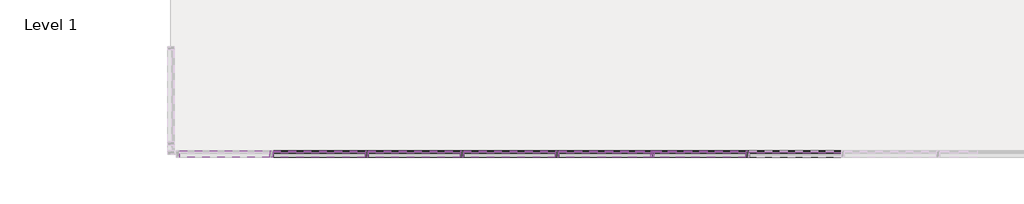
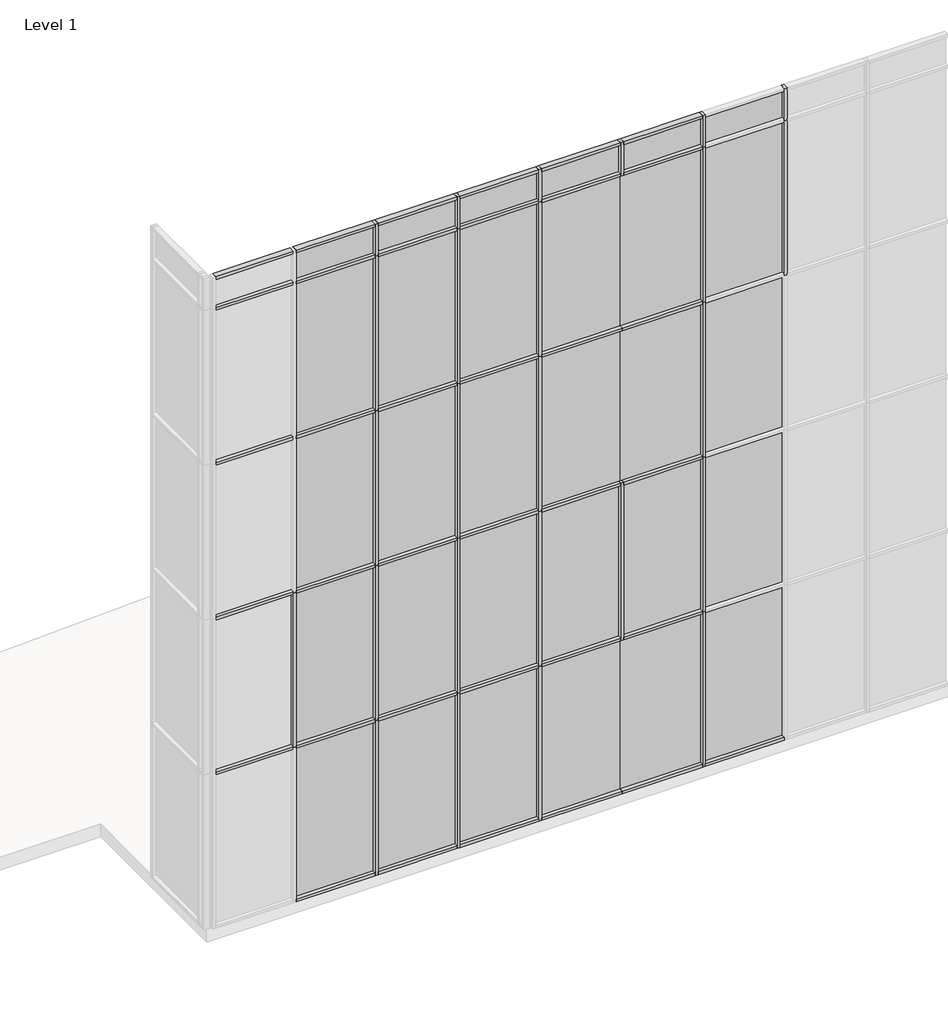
# One storey, part 2 of 3: 61 members, 30 plates.
"""IFC4 building model written with IfcOpenShell, lengths in millimetres."""

from ifc_helpers import new_model, si_unit, origin, place, context, project, spatial, transform, mapped, element, save
from components import member_810865a4, member_61742b2b, member_6d5c3e5e, member_64ee9188, member_9764dd38, member_bca00a8a, member_6f717f5b, member_c3fe432b, member_165c0c02, member_9ae56b13, system_panel_glazed_7e716341, system_panel_glazed_7e07fde3, system_panel_glazed_a6232784, system_panel_glazed_dcdf1185, system_panel_glazed_e74b10a4

model = new_model("IFC4")

# Units and contexts
model_context = context("Model", 3, world=origin())
ifc_project = project(units=[si_unit("LENGTHUNIT", "METRE", prefix="MILLI")], contexts=[model_context])

# Site, building, storey
site = spatial("IfcSite", under=ifc_project)
building = spatial("IfcBuilding", under=site)
storey = spatial("IfcBuildingStorey", under=building, Name="Level 1", Elevation=0.0)

# Members
placement = place(None, origin())
member_shape = member_810865a4(model_context)
element("IfcMember", 1, ObjectType="Rectangular Mullion : 2.5\" x 5\" rectangular", at=placement, inside=storey, context=model_context, shape_type="MappedRepresentation", body=[
    mapped(member_shape, transform((6219.4188959, 4686.3138106, 0.0), x_axis=(1.0, 0.0, 0.0), y_axis=(0.0, -1.0, 0.0), z_axis=(0.0, 0.0, -1.0))),
])
element("IfcMember", 2, ObjectType="Rectangular Mullion : 2.5\" x 5\" rectangular", at=placement, inside=storey, context=model_context, shape_type="MappedRepresentation", body=[
    mapped(member_shape, transform((2561.8188959, 4686.3138106, 0.0), x_axis=(1.0, 0.0, 0.0), y_axis=(0.0, -1.0, 0.0), z_axis=(0.0, 0.0, -1.0))),
])
element("IfcMember", 3, ObjectType="Rectangular Mullion : 2.5\" x 5\" rectangular", at=placement, inside=storey, context=model_context, shape_type="MappedRepresentation", body=[
    mapped(member_shape, transform((4390.6188959, 4686.3138106, 0.0), x_axis=(1.0, 0.0, 0.0), y_axis=(0.0, -1.0, 0.0), z_axis=(0.0, 0.0, -1.0))),
])
element("IfcMember", 4, ObjectType="Rectangular Mullion : 2.5\" x 5\" rectangular", at=placement, inside=storey, context=model_context, shape_type="MappedRepresentation", body=[
    mapped(member_shape, transform((9877.0188959, 4686.3138106, 0.0), x_axis=(1.0, 0.0, 0.0), y_axis=(0.0, -1.0, 0.0), z_axis=(0.0, 0.0, -1.0))),
])
member_2_shape = member_61742b2b(model_context)
element("IfcMember", 5, ObjectType="Rectangular Mullion : 2.5\" x 5\" rectangular", at=placement, inside=storey, context=model_context, shape_type="MappedRepresentation", body=[
    mapped(member_2_shape, transform((6219.4188959, 4686.3138106, 14630.4), x_axis=(1.0, 0.0, 0.0), y_axis=(0.0, -1.0, 0.0), z_axis=(0.0, 0.0, -1.0))),
])
element("IfcMember", 6, ObjectType="Rectangular Mullion : 2.5\" x 5\" rectangular", at=placement, inside=storey, context=model_context, shape_type="MappedRepresentation", body=[
    mapped(member_2_shape, transform((11705.8188959, 4686.3138106, 14630.4), x_axis=(1.0, 0.0, 0.0), y_axis=(0.0, -1.0, 0.0), z_axis=(0.0, 0.0, -1.0))),
])
element("IfcMember", 7, ObjectType="Rectangular Mullion : 2.5\" x 5\" rectangular", at=placement, inside=storey, context=model_context, shape_type="MappedRepresentation", body=[
    mapped(member_2_shape, transform((9877.0188959, 4686.3138106, 14630.4), x_axis=(1.0, 0.0, 0.0), y_axis=(0.0, -1.0, 0.0), z_axis=(0.0, 0.0, -1.0))),
])
element("IfcMember", 8, ObjectType="Rectangular Mullion : 2.5\" x 5\" rectangular", at=placement, inside=storey, context=model_context, shape_type="MappedRepresentation", body=[
    mapped(member_2_shape, transform((4390.6188959, 4686.3138106, 14630.4), x_axis=(1.0, 0.0, 0.0), y_axis=(0.0, -1.0, 0.0), z_axis=(0.0, 0.0, -1.0))),
])
element("IfcMember", 9, ObjectType="Rectangular Mullion : 2.5\" x 5\" rectangular", at=placement, inside=storey, context=model_context, shape_type="MappedRepresentation", body=[
    mapped(member_2_shape, transform((2561.8188959, 4686.3138106, 14630.4), x_axis=(1.0, 0.0, 0.0), y_axis=(0.0, -1.0, 0.0), z_axis=(0.0, 0.0, -1.0))),
])
element("IfcMember", 10, ObjectType="Rectangular Mullion : 2.5\" x 5\" rectangular", at=placement, inside=storey, context=model_context, shape_type="MappedRepresentation", body=[
    mapped(member_shape, transform((6219.4188959, 4686.3138106, 3657.6), x_axis=(1.0, 0.0, 0.0), y_axis=(0.0, -1.0, 0.0), z_axis=(0.0, 0.0, -1.0))),
])
element("IfcMember", 11, ObjectType="Rectangular Mullion : 2.5\" x 5\" rectangular", at=placement, inside=storey, context=model_context, shape_type="MappedRepresentation", body=[
    mapped(member_shape, transform((6219.4188959, 4686.3138106, 7315.2), x_axis=(1.0, 0.0, 0.0), y_axis=(0.0, -1.0, 0.0), z_axis=(0.0, 0.0, -1.0))),
])
element("IfcMember", 12, ObjectType="Rectangular Mullion : 2.5\" x 5\" rectangular", at=placement, inside=storey, context=model_context, shape_type="MappedRepresentation", body=[
    mapped(member_shape, transform((6219.4188959, 4686.3138106, 10972.8), x_axis=(1.0, 0.0, 0.0), y_axis=(0.0, -1.0, 0.0), z_axis=(0.0, 0.0, -1.0))),
])
element("IfcMember", 13, ObjectType="Rectangular Mullion : 2.5\" x 5\" rectangular", at=placement, inside=storey, context=model_context, shape_type="MappedRepresentation", body=[
    mapped(member_shape, transform((11705.8188959, 4686.3138106, 10972.8), x_axis=(1.0, 0.0, 0.0), y_axis=(0.0, -1.0, 0.0), z_axis=(0.0, 0.0, -1.0))),
])
element("IfcMember", 14, ObjectType="Rectangular Mullion : 2.5\" x 5\" rectangular", at=placement, inside=storey, context=model_context, shape_type="MappedRepresentation", body=[
    mapped(member_shape, transform((9877.0188959, 4686.3138106, 10972.8), x_axis=(1.0, 0.0, 0.0), y_axis=(0.0, -1.0, 0.0), z_axis=(0.0, 0.0, -1.0))),
])
element("IfcMember", 15, ObjectType="Rectangular Mullion : 2.5\" x 5\" rectangular", at=placement, inside=storey, context=model_context, shape_type="MappedRepresentation", body=[
    mapped(member_shape, transform((9877.0188959, 4686.3138106, 7315.2), x_axis=(1.0, 0.0, 0.0), y_axis=(0.0, -1.0, 0.0), z_axis=(0.0, 0.0, -1.0))),
])
element("IfcMember", 16, ObjectType="Rectangular Mullion : 2.5\" x 5\" rectangular", at=placement, inside=storey, context=model_context, shape_type="MappedRepresentation", body=[
    mapped(member_shape, transform((9877.0188959, 4686.3138106, 3657.6), x_axis=(1.0, 0.0, 0.0), y_axis=(0.0, -1.0, 0.0), z_axis=(0.0, 0.0, -1.0))),
])
element("IfcMember", 17, ObjectType="Rectangular Mullion : 2.5\" x 5\" rectangular", at=placement, inside=storey, context=model_context, shape_type="MappedRepresentation", body=[
    mapped(member_shape, transform((4390.6188959, 4686.3138106, 10972.8), x_axis=(1.0, 0.0, 0.0), y_axis=(0.0, -1.0, 0.0), z_axis=(0.0, 0.0, -1.0))),
])
element("IfcMember", 18, ObjectType="Rectangular Mullion : 2.5\" x 5\" rectangular", at=placement, inside=storey, context=model_context, shape_type="MappedRepresentation", body=[
    mapped(member_shape, transform((4390.6188959, 4686.3138106, 7315.2), x_axis=(1.0, 0.0, 0.0), y_axis=(0.0, -1.0, 0.0), z_axis=(0.0, 0.0, -1.0))),
])
element("IfcMember", 19, ObjectType="Rectangular Mullion : 2.5\" x 5\" rectangular", at=placement, inside=storey, context=model_context, shape_type="MappedRepresentation", body=[
    mapped(member_shape, transform((4390.6188959, 4686.3138106, 3657.6), x_axis=(1.0, 0.0, 0.0), y_axis=(0.0, -1.0, 0.0), z_axis=(0.0, 0.0, -1.0))),
])
element("IfcMember", 20, ObjectType="Rectangular Mullion : 2.5\" x 5\" rectangular", at=placement, inside=storey, context=model_context, shape_type="MappedRepresentation", body=[
    mapped(member_shape, transform((2561.8188959, 4686.3138106, 10972.8), x_axis=(1.0, 0.0, 0.0), y_axis=(0.0, -1.0, 0.0), z_axis=(0.0, 0.0, -1.0))),
])
element("IfcMember", 21, ObjectType="Rectangular Mullion : 2.5\" x 5\" rectangular", at=placement, inside=storey, context=model_context, shape_type="MappedRepresentation", body=[
    mapped(member_shape, transform((2561.8188959, 4686.3138106, 7315.2), x_axis=(1.0, 0.0, 0.0), y_axis=(0.0, -1.0, 0.0), z_axis=(0.0, 0.0, -1.0))),
])
element("IfcMember", 22, ObjectType="Rectangular Mullion : 2.5\" x 5\" rectangular", at=placement, inside=storey, context=model_context, shape_type="MappedRepresentation", body=[
    mapped(member_shape, transform((2561.8188959, 4686.3138106, 3657.6), x_axis=(1.0, 0.0, 0.0), y_axis=(0.0, -1.0, 0.0), z_axis=(0.0, 0.0, -1.0))),
])
element("IfcMember", 23, ObjectType="Rectangular Mullion : 2.5\" x 5\" rectangular", at=placement, inside=storey, context=model_context, shape_type="MappedRepresentation", body=[
    mapped(member_shape, transform((733.0188959, 4686.3138106, 3657.6), x_axis=(1.0, 0.0, 0.0), y_axis=(0.0, -1.0, 0.0), z_axis=(0.0, 0.0, -1.0))),
])
member_3_shape = member_6d5c3e5e(model_context)
element("IfcMember", 24, ObjectType="Rectangular Mullion : 2.5\" x 5\" rectangular", at=placement, inside=storey, context=model_context, shape_type="MappedRepresentation", body=[
    mapped(member_3_shape, transform((9845.2688959, 4686.3138106, 15392.4), x_axis=(0.0, 0.0, 1.0), y_axis=(0.0, -1.0, 0.0), z_axis=(1.0, 0.0, 0.0))),
])
element("IfcMember", 25, ObjectType="Rectangular Mullion : 2.5\" x 5\" rectangular", at=placement, inside=storey, context=model_context, shape_type="MappedRepresentation", body=[
    mapped(member_3_shape, transform((8016.4688959, 4686.3138106, 15392.4), x_axis=(0.0, 0.0, 1.0), y_axis=(0.0, -1.0, 0.0), z_axis=(1.0, 0.0, 0.0))),
])
element("IfcMember", 26, ObjectType="Rectangular Mullion : 2.5\" x 5\" rectangular", at=placement, inside=storey, context=model_context, shape_type="MappedRepresentation", body=[
    mapped(member_3_shape, transform((6187.6688959, 4686.3138106, 15392.4), x_axis=(0.0, 0.0, 1.0), y_axis=(0.0, -1.0, 0.0), z_axis=(1.0, 0.0, 0.0))),
])
element("IfcMember", 27, ObjectType="Rectangular Mullion : 2.5\" x 5\" rectangular", at=placement, inside=storey, context=model_context, shape_type="MappedRepresentation", body=[
    mapped(member_3_shape, transform((4358.8688959, 4686.3138106, 15392.4), x_axis=(0.0, 0.0, 1.0), y_axis=(0.0, -1.0, 0.0), z_axis=(1.0, 0.0, 0.0))),
])
element("IfcMember", 28, ObjectType="Rectangular Mullion : 2.5\" x 5\" rectangular", at=placement, inside=storey, context=model_context, shape_type="MappedRepresentation", body=[
    mapped(member_3_shape, transform((2530.0688959, 4686.3138106, 15392.4), x_axis=(0.0, 0.0, 1.0), y_axis=(0.0, -1.0, 0.0), z_axis=(1.0, 0.0, 0.0))),
])
member_4_shape = member_64ee9188(model_context)
element("IfcMember", 29, ObjectType="Rectangular Mullion : 2.5\" x 5\" rectangular", at=placement, inside=storey, context=model_context, shape_type="MappedRepresentation", body=[
    mapped(member_4_shape, transform((701.2688959, 4686.3138106, 15392.4), x_axis=(0.0, 0.0, 1.0), y_axis=(0.0, -1.0, 0.0), z_axis=(1.0, 0.0, 0.0))),
])
element("IfcMember", 30, ObjectType="Rectangular Mullion : 2.5\" x 5\" rectangular", at=placement, inside=storey, context=model_context, shape_type="MappedRepresentation", body=[
    mapped(member_3_shape, transform((9908.7688959, 4686.3138106, 0.0), x_axis=(0.0, 0.0, -1.0), y_axis=(0.0, -1.0, 0.0), z_axis=(-1.0, 0.0, 0.0))),
])
element("IfcMember", 31, ObjectType="Rectangular Mullion : 2.5\" x 5\" rectangular", at=placement, inside=storey, context=model_context, shape_type="MappedRepresentation", body=[
    mapped(member_3_shape, transform((4422.3688959, 4686.3138106, 0.0), x_axis=(0.0, 0.0, -1.0), y_axis=(0.0, -1.0, 0.0), z_axis=(-1.0, 0.0, 0.0))),
])
element("IfcMember", 32, ObjectType="Rectangular Mullion : 2.5\" x 5\" rectangular", at=placement, inside=storey, context=model_context, shape_type="MappedRepresentation", body=[
    mapped(member_3_shape, transform((2593.5688959, 4686.3138106, 0.0), x_axis=(0.0, 0.0, -1.0), y_axis=(0.0, -1.0, 0.0), z_axis=(-1.0, 0.0, 0.0))),
])
element("IfcMember", 33, ObjectType="Rectangular Mullion : 2.5\" x 5\" rectangular", at=placement, inside=storey, context=model_context, shape_type="MappedRepresentation", body=[
    mapped(member_3_shape, transform((764.7688959, 4686.3138106, 0.0), x_axis=(0.0, 0.0, -1.0), y_axis=(0.0, -1.0, 0.0), z_axis=(-1.0, 0.0, 0.0))),
])
member_5_shape = member_9764dd38(model_context)
element("IfcMember", 34, ObjectType="Rectangular Mullion : 2.5\" x 5\" rectangular", at=placement, inside=storey, context=model_context, shape_type="MappedRepresentation", body=[
    mapped(member_5_shape, transform((9845.2688959, 4686.3138106, 14630.4), x_axis=(0.0, 0.0, 1.0), y_axis=(0.0, -1.0, 0.0), z_axis=(1.0, 0.0, 0.0))),
])
element("IfcMember", 35, ObjectType="Rectangular Mullion : 2.5\" x 5\" rectangular", at=placement, inside=storey, context=model_context, shape_type="MappedRepresentation", body=[
    mapped(member_5_shape, transform((8016.4688959, 4686.3138106, 14630.4), x_axis=(0.0, 0.0, 1.0), y_axis=(0.0, -1.0, 0.0), z_axis=(1.0, 0.0, 0.0))),
])
element("IfcMember", 36, ObjectType="Rectangular Mullion : 2.5\" x 5\" rectangular", at=placement, inside=storey, context=model_context, shape_type="MappedRepresentation", body=[
    mapped(member_5_shape, transform((6187.6688959, 4686.3138106, 14630.4), x_axis=(0.0, 0.0, 1.0), y_axis=(0.0, -1.0, 0.0), z_axis=(1.0, 0.0, 0.0))),
])
element("IfcMember", 37, ObjectType="Rectangular Mullion : 2.5\" x 5\" rectangular", at=placement, inside=storey, context=model_context, shape_type="MappedRepresentation", body=[
    mapped(member_5_shape, transform((4358.8688959, 4686.3138106, 14630.4), x_axis=(0.0, 0.0, 1.0), y_axis=(0.0, -1.0, 0.0), z_axis=(1.0, 0.0, 0.0))),
])
element("IfcMember", 38, ObjectType="Rectangular Mullion : 2.5\" x 5\" rectangular", at=placement, inside=storey, context=model_context, shape_type="MappedRepresentation", body=[
    mapped(member_5_shape, transform((2530.0688959, 4686.3138106, 14630.4), x_axis=(0.0, 0.0, 1.0), y_axis=(0.0, -1.0, 0.0), z_axis=(1.0, 0.0, 0.0))),
])
element("IfcMember", 39, ObjectType="Rectangular Mullion : 2.5\" x 5\" rectangular", at=placement, inside=storey, context=model_context, shape_type="MappedRepresentation", body=[
    mapped(member_5_shape, transform((6187.6688959, 4686.3138106, 10972.8), x_axis=(0.0, 0.0, 1.0), y_axis=(0.0, -1.0, 0.0), z_axis=(1.0, 0.0, 0.0))),
])
element("IfcMember", 40, ObjectType="Rectangular Mullion : 2.5\" x 5\" rectangular", at=placement, inside=storey, context=model_context, shape_type="MappedRepresentation", body=[
    mapped(member_5_shape, transform((4358.8688959, 4686.3138106, 10972.8), x_axis=(0.0, 0.0, 1.0), y_axis=(0.0, -1.0, 0.0), z_axis=(1.0, 0.0, 0.0))),
])
element("IfcMember", 41, ObjectType="Rectangular Mullion : 2.5\" x 5\" rectangular", at=placement, inside=storey, context=model_context, shape_type="MappedRepresentation", body=[
    mapped(member_5_shape, transform((2530.0688959, 4686.3138106, 10972.8), x_axis=(0.0, 0.0, 1.0), y_axis=(0.0, -1.0, 0.0), z_axis=(1.0, 0.0, 0.0))),
])
element("IfcMember", 42, ObjectType="Rectangular Mullion : 2.5\" x 5\" rectangular", at=placement, inside=storey, context=model_context, shape_type="MappedRepresentation", body=[
    mapped(member_5_shape, transform((9845.2688959, 4686.3138106, 7315.2), x_axis=(0.0, 0.0, 1.0), y_axis=(0.0, -1.0, 0.0), z_axis=(1.0, 0.0, 0.0))),
])
element("IfcMember", 43, ObjectType="Rectangular Mullion : 2.5\" x 5\" rectangular", at=placement, inside=storey, context=model_context, shape_type="MappedRepresentation", body=[
    mapped(member_5_shape, transform((8016.4688959, 4686.3138106, 7315.2), x_axis=(0.0, 0.0, 1.0), y_axis=(0.0, -1.0, 0.0), z_axis=(1.0, 0.0, 0.0))),
])
element("IfcMember", 44, ObjectType="Rectangular Mullion : 2.5\" x 5\" rectangular", at=placement, inside=storey, context=model_context, shape_type="MappedRepresentation", body=[
    mapped(member_5_shape, transform((6187.6688959, 4686.3138106, 7315.2), x_axis=(0.0, 0.0, 1.0), y_axis=(0.0, -1.0, 0.0), z_axis=(1.0, 0.0, 0.0))),
])
element("IfcMember", 45, ObjectType="Rectangular Mullion : 2.5\" x 5\" rectangular", at=placement, inside=storey, context=model_context, shape_type="MappedRepresentation", body=[
    mapped(member_5_shape, transform((4358.8688959, 4686.3138106, 7315.2), x_axis=(0.0, 0.0, 1.0), y_axis=(0.0, -1.0, 0.0), z_axis=(1.0, 0.0, 0.0))),
])
element("IfcMember", 46, ObjectType="Rectangular Mullion : 2.5\" x 5\" rectangular", at=placement, inside=storey, context=model_context, shape_type="MappedRepresentation", body=[
    mapped(member_5_shape, transform((2530.0688959, 4686.3138106, 7315.2), x_axis=(0.0, 0.0, 1.0), y_axis=(0.0, -1.0, 0.0), z_axis=(1.0, 0.0, 0.0))),
])
element("IfcMember", 47, ObjectType="Rectangular Mullion : 2.5\" x 5\" rectangular", at=placement, inside=storey, context=model_context, shape_type="MappedRepresentation", body=[
    mapped(member_5_shape, transform((8016.4688959, 4686.3138106, 3657.6), x_axis=(0.0, 0.0, 1.0), y_axis=(0.0, -1.0, 0.0), z_axis=(1.0, 0.0, 0.0))),
])
element("IfcMember", 48, ObjectType="Rectangular Mullion : 2.5\" x 5\" rectangular", at=placement, inside=storey, context=model_context, shape_type="MappedRepresentation", body=[
    mapped(member_5_shape, transform((9845.2688959, 4686.3138106, 3657.6), x_axis=(0.0, 0.0, 1.0), y_axis=(0.0, -1.0, 0.0), z_axis=(1.0, 0.0, 0.0))),
])
element("IfcMember", 49, ObjectType="Rectangular Mullion : 2.5\" x 5\" rectangular", at=placement, inside=storey, context=model_context, shape_type="MappedRepresentation", body=[
    mapped(member_5_shape, transform((6187.6688959, 4686.3138106, 3657.6), x_axis=(0.0, 0.0, 1.0), y_axis=(0.0, -1.0, 0.0), z_axis=(1.0, 0.0, 0.0))),
])
element("IfcMember", 50, ObjectType="Rectangular Mullion : 2.5\" x 5\" rectangular", at=placement, inside=storey, context=model_context, shape_type="MappedRepresentation", body=[
    mapped(member_5_shape, transform((2530.0688959, 4686.3138106, 3657.6), x_axis=(0.0, 0.0, 1.0), y_axis=(0.0, -1.0, 0.0), z_axis=(1.0, 0.0, 0.0))),
])
element("IfcMember", 51, ObjectType="Rectangular Mullion : 2.5\" x 5\" rectangular", at=placement, inside=storey, context=model_context, shape_type="MappedRepresentation", body=[
    mapped(member_5_shape, transform((4358.8688959, 4686.3138106, 3657.6), x_axis=(0.0, 0.0, 1.0), y_axis=(0.0, -1.0, 0.0), z_axis=(1.0, 0.0, 0.0))),
])
member_6_shape = member_bca00a8a(model_context)
element("IfcMember", 52, ObjectType="Rectangular Mullion : 2.5\" x 5\" rectangular", at=placement, inside=storey, context=model_context, shape_type="MappedRepresentation", body=[
    mapped(member_6_shape, transform((701.2688959, 4686.3138106, 14630.4), x_axis=(0.0, 0.0, 1.0), y_axis=(0.0, -1.0, 0.0), z_axis=(1.0, 0.0, 0.0))),
])
element("IfcMember", 53, ObjectType="Rectangular Mullion : 2.5\" x 5\" rectangular", at=placement, inside=storey, context=model_context, shape_type="MappedRepresentation", body=[
    mapped(member_6_shape, transform((701.2688959, 4686.3138106, 10972.8), x_axis=(0.0, 0.0, 1.0), y_axis=(0.0, -1.0, 0.0), z_axis=(1.0, 0.0, 0.0))),
])
element("IfcMember", 54, ObjectType="Rectangular Mullion : 2.5\" x 5\" rectangular", at=placement, inside=storey, context=model_context, shape_type="MappedRepresentation", body=[
    mapped(member_6_shape, transform((701.2688959, 4686.3138106, 7315.2), x_axis=(0.0, 0.0, 1.0), y_axis=(0.0, -1.0, 0.0), z_axis=(1.0, 0.0, 0.0))),
])
element("IfcMember", 55, ObjectType="Rectangular Mullion : 2.5\" x 5\" rectangular", at=placement, inside=storey, context=model_context, shape_type="MappedRepresentation", body=[
    mapped(member_6_shape, transform((701.2688959, 4686.3138106, 3657.6), x_axis=(0.0, 0.0, 1.0), y_axis=(0.0, -1.0, 0.0), z_axis=(1.0, 0.0, 0.0))),
])
member_7_shape = member_6f717f5b(model_context)
element("IfcMember", 56, ObjectType="Rectangular Mullion : 2.5\" x 5\" rectangular", at=placement, inside=storey, context=model_context, shape_type="MappedRepresentation", body=[
    mapped(member_7_shape, transform((8048.2188959, 4686.3138106, 14598.65), x_axis=(1.0, 0.0, 0.0), y_axis=(0.0, -1.0, 0.0), z_axis=(0.0, 0.0, -1.0))),
])
member_8_shape = member_c3fe432b(model_context)
element("IfcMember", 57, ObjectType="Rectangular Mullion : 2.5\" x 5\" rectangular", at=placement, inside=storey, context=model_context, shape_type="MappedRepresentation", body=[
    mapped(member_8_shape, transform((9845.2688959, 4686.3138106, 10972.8), x_axis=(0.0, 0.0, 1.0), y_axis=(0.0, -1.0, 0.0), z_axis=(1.0, 0.0, 0.0))),
])
element("IfcMember", 58, ObjectType="Rectangular Mullion : 2.5\" x 5\" rectangular", at=placement, inside=storey, context=model_context, shape_type="MappedRepresentation", body=[
    mapped(member_8_shape, transform((8048.2188959, 4686.3138106, 10972.8), x_axis=(0.0, 0.0, 1.0), y_axis=(0.0, -1.0, 0.0), z_axis=(1.0, 0.0, 0.0))),
])
member_9_shape = member_165c0c02(model_context)
element("IfcMember", 59, ObjectType="Rectangular Mullion : 2.5\" x 5\" rectangular", at=placement, inside=storey, context=model_context, shape_type="MappedRepresentation", body=[
    mapped(member_9_shape, transform((8048.2188959, 4686.3138106, 3625.85), x_axis=(1.0, 0.0, 0.0), y_axis=(0.0, -1.0, 0.0), z_axis=(0.0, 0.0, -1.0))),
])
member_10_shape = member_9ae56b13(model_context)
element("IfcMember", 60, ObjectType="Rectangular Mullion : 2.5\" x 5\" rectangular", at=placement, inside=storey, context=model_context, shape_type="MappedRepresentation", body=[
    mapped(member_10_shape, transform((8048.2188959, 4686.3138106, 0.0), x_axis=(0.0, 0.0, -1.0), y_axis=(0.0, -1.0, 0.0), z_axis=(-1.0, 0.0, 0.0))),
])
element("IfcMember", 61, ObjectType="Rectangular Mullion : 2.5\" x 5\" rectangular", at=placement, inside=storey, context=model_context, shape_type="MappedRepresentation", body=[
    mapped(member_10_shape, transform((6251.1688959, 4686.3138106, 0.0), x_axis=(0.0, 0.0, -1.0), y_axis=(0.0, -1.0, 0.0), z_axis=(-1.0, 0.0, 0.0))),
])

# Plates
system_panel_glazed_shape = system_panel_glazed_7e716341(model_context)
element("IfcPlate", 62, ObjectType="System Panel : Glazed", at=placement, inside=storey, context=model_context, shape_type="MappedRepresentation", body=[
    mapped(system_panel_glazed_shape, transform((1647.4188959, 4686.3138106, 63.5), x_axis=(1.0, 0.0, 0.0), y_axis=(0.0, 1.0, 0.0), z_axis=(0.0, 0.0, 1.0))),
])
element("IfcPlate", 63, ObjectType="System Panel : Glazed", at=placement, inside=storey, context=model_context, shape_type="MappedRepresentation", body=[
    mapped(system_panel_glazed_shape, transform((3476.2188959, 4686.3138106, 63.5), x_axis=(1.0, 0.0, 0.0), y_axis=(0.0, 1.0, 0.0), z_axis=(0.0, 0.0, 1.0))),
])
element("IfcPlate", 64, ObjectType="System Panel : Glazed", at=placement, inside=storey, context=model_context, shape_type="MappedRepresentation", body=[
    mapped(system_panel_glazed_shape, transform((5305.0188959, 4686.3138106, 63.5), x_axis=(1.0, 0.0, 0.0), y_axis=(0.0, 1.0, 0.0), z_axis=(0.0, 0.0, 1.0))),
])
element("IfcPlate", 65, ObjectType="System Panel : Glazed", at=placement, inside=storey, context=model_context, shape_type="MappedRepresentation", body=[
    mapped(system_panel_glazed_shape, transform((10791.4188959, 4686.3138106, 63.5), x_axis=(1.0, 0.0, 0.0), y_axis=(0.0, 1.0, 0.0), z_axis=(0.0, 0.0, 1.0))),
])
system_panel_glazed_2_shape = system_panel_glazed_7e07fde3(model_context)
element("IfcPlate", 66, ObjectType="System Panel : Glazed", at=placement, inside=storey, context=model_context, shape_type="MappedRepresentation", body=[
    mapped(system_panel_glazed_2_shape, transform((1647.4188959, 4686.3138106, 3689.35), x_axis=(1.0, 0.0, 0.0), y_axis=(0.0, 1.0, 0.0), z_axis=(0.0, 0.0, 1.0))),
])
element("IfcPlate", 67, ObjectType="System Panel : Glazed", at=placement, inside=storey, context=model_context, shape_type="MappedRepresentation", body=[
    mapped(system_panel_glazed_2_shape, transform((3476.2188959, 4686.3138106, 3689.35), x_axis=(1.0, 0.0, 0.0), y_axis=(0.0, 1.0, 0.0), z_axis=(0.0, 0.0, 1.0))),
])
element("IfcPlate", 68, ObjectType="System Panel : Glazed", at=placement, inside=storey, context=model_context, shape_type="MappedRepresentation", body=[
    mapped(system_panel_glazed_2_shape, transform((5305.0188959, 4686.3138106, 3689.35), x_axis=(1.0, 0.0, 0.0), y_axis=(0.0, 1.0, 0.0), z_axis=(0.0, 0.0, 1.0))),
])
element("IfcPlate", 69, ObjectType="System Panel : Glazed", at=placement, inside=storey, context=model_context, shape_type="MappedRepresentation", body=[
    mapped(system_panel_glazed_2_shape, transform((7133.8188959, 4686.3138106, 3689.35), x_axis=(1.0, 0.0, 0.0), y_axis=(0.0, 1.0, 0.0), z_axis=(0.0, 0.0, 1.0))),
])
element("IfcPlate", 70, ObjectType="System Panel : Glazed", at=placement, inside=storey, context=model_context, shape_type="MappedRepresentation", body=[
    mapped(system_panel_glazed_2_shape, transform((8962.6188959, 4686.3138106, 3689.35), x_axis=(1.0, 0.0, 0.0), y_axis=(0.0, 1.0, 0.0), z_axis=(0.0, 0.0, 1.0))),
])
element("IfcPlate", 71, ObjectType="System Panel : Glazed", at=placement, inside=storey, context=model_context, shape_type="MappedRepresentation", body=[
    mapped(system_panel_glazed_2_shape, transform((10791.4188959, 4686.3138106, 3689.35), x_axis=(1.0, 0.0, 0.0), y_axis=(0.0, 1.0, 0.0), z_axis=(0.0, 0.0, 1.0))),
])
element("IfcPlate", 72, ObjectType="System Panel : Glazed", at=placement, inside=storey, context=model_context, shape_type="MappedRepresentation", body=[
    mapped(system_panel_glazed_2_shape, transform((1647.4188959, 4686.3138106, 7346.95), x_axis=(1.0, 0.0, 0.0), y_axis=(0.0, 1.0, 0.0), z_axis=(0.0, 0.0, 1.0))),
])
element("IfcPlate", 73, ObjectType="System Panel : Glazed", at=placement, inside=storey, context=model_context, shape_type="MappedRepresentation", body=[
    mapped(system_panel_glazed_2_shape, transform((3476.2188959, 4686.3138106, 7346.95), x_axis=(1.0, 0.0, 0.0), y_axis=(0.0, 1.0, 0.0), z_axis=(0.0, 0.0, 1.0))),
])
element("IfcPlate", 74, ObjectType="System Panel : Glazed", at=placement, inside=storey, context=model_context, shape_type="MappedRepresentation", body=[
    mapped(system_panel_glazed_2_shape, transform((5305.0188959, 4686.3138106, 7346.95), x_axis=(1.0, 0.0, 0.0), y_axis=(0.0, 1.0, 0.0), z_axis=(0.0, 0.0, 1.0))),
])
element("IfcPlate", 75, ObjectType="System Panel : Glazed", at=placement, inside=storey, context=model_context, shape_type="MappedRepresentation", body=[
    mapped(system_panel_glazed_2_shape, transform((10791.4188959, 4686.3138106, 7346.95), x_axis=(1.0, 0.0, 0.0), y_axis=(0.0, 1.0, 0.0), z_axis=(0.0, 0.0, 1.0))),
])
element("IfcPlate", 76, ObjectType="System Panel : Glazed", at=placement, inside=storey, context=model_context, shape_type="MappedRepresentation", body=[
    mapped(system_panel_glazed_2_shape, transform((1647.4188959, 4686.3138106, 11004.55), x_axis=(1.0, 0.0, 0.0), y_axis=(0.0, 1.0, 0.0), z_axis=(0.0, 0.0, 1.0))),
])
element("IfcPlate", 77, ObjectType="System Panel : Glazed", at=placement, inside=storey, context=model_context, shape_type="MappedRepresentation", body=[
    mapped(system_panel_glazed_2_shape, transform((3476.2188959, 4686.3138106, 11004.55), x_axis=(1.0, 0.0, 0.0), y_axis=(0.0, 1.0, 0.0), z_axis=(0.0, 0.0, 1.0))),
])
element("IfcPlate", 78, ObjectType="System Panel : Glazed", at=placement, inside=storey, context=model_context, shape_type="MappedRepresentation", body=[
    mapped(system_panel_glazed_2_shape, transform((5305.0188959, 4686.3138106, 11004.55), x_axis=(1.0, 0.0, 0.0), y_axis=(0.0, 1.0, 0.0), z_axis=(0.0, 0.0, 1.0))),
])
element("IfcPlate", 79, ObjectType="System Panel : Glazed", at=placement, inside=storey, context=model_context, shape_type="MappedRepresentation", body=[
    mapped(system_panel_glazed_2_shape, transform((10791.4188959, 4686.3138106, 11004.55), x_axis=(1.0, 0.0, 0.0), y_axis=(0.0, 1.0, 0.0), z_axis=(0.0, 0.0, 1.0))),
])
system_panel_glazed_3_shape = system_panel_glazed_a6232784(model_context)
element("IfcPlate", 80, ObjectType="System Panel : Glazed", at=placement, inside=storey, context=model_context, shape_type="MappedRepresentation", body=[
    mapped(system_panel_glazed_3_shape, transform((1647.4188959, 4686.3138106, 14662.15), x_axis=(1.0, 0.0, 0.0), y_axis=(0.0, 1.0, 0.0), z_axis=(0.0, 0.0, 1.0))),
])
element("IfcPlate", 81, ObjectType="System Panel : Glazed", at=placement, inside=storey, context=model_context, shape_type="MappedRepresentation", body=[
    mapped(system_panel_glazed_3_shape, transform((3476.2188959, 4686.3138106, 14662.15), x_axis=(1.0, 0.0, 0.0), y_axis=(0.0, 1.0, 0.0), z_axis=(0.0, 0.0, 1.0))),
])
element("IfcPlate", 82, ObjectType="System Panel : Glazed", at=placement, inside=storey, context=model_context, shape_type="MappedRepresentation", body=[
    mapped(system_panel_glazed_3_shape, transform((5305.0188959, 4686.3138106, 14662.15), x_axis=(1.0, 0.0, 0.0), y_axis=(0.0, 1.0, 0.0), z_axis=(0.0, 0.0, 1.0))),
])
element("IfcPlate", 83, ObjectType="System Panel : Glazed", at=placement, inside=storey, context=model_context, shape_type="MappedRepresentation", body=[
    mapped(system_panel_glazed_3_shape, transform((7133.8188959, 4686.3138106, 14662.15), x_axis=(1.0, 0.0, 0.0), y_axis=(0.0, 1.0, 0.0), z_axis=(0.0, 0.0, 1.0))),
])
element("IfcPlate", 84, ObjectType="System Panel : Glazed", at=placement, inside=storey, context=model_context, shape_type="MappedRepresentation", body=[
    mapped(system_panel_glazed_3_shape, transform((8962.6188959, 4686.3138106, 14662.15), x_axis=(1.0, 0.0, 0.0), y_axis=(0.0, 1.0, 0.0), z_axis=(0.0, 0.0, 1.0))),
])
element("IfcPlate", 85, ObjectType="System Panel : Glazed", at=placement, inside=storey, context=model_context, shape_type="MappedRepresentation", body=[
    mapped(system_panel_glazed_3_shape, transform((10791.4188959, 4686.3138106, 14662.15), x_axis=(1.0, 0.0, 0.0), y_axis=(0.0, 1.0, 0.0), z_axis=(0.0, 0.0, 1.0))),
])
system_panel_glazed_4_shape = system_panel_glazed_dcdf1185(model_context)
element("IfcPlate", 86, ObjectType="System Panel : Glazed", at=placement, inside=storey, context=model_context, shape_type="MappedRepresentation", body=[
    mapped(system_panel_glazed_4_shape, transform((7149.6938959, 4686.3138106, 7346.95), x_axis=(1.0, 0.0, 0.0), y_axis=(0.0, 1.0, 0.0), z_axis=(0.0, 0.0, 1.0))),
])
element("IfcPlate", 87, ObjectType="System Panel : Glazed", at=placement, inside=storey, context=model_context, shape_type="MappedRepresentation", body=[
    mapped(system_panel_glazed_4_shape, transform((8946.7438959, 4686.3138106, 7346.95), x_axis=(1.0, 0.0, 0.0), y_axis=(0.0, 1.0, 0.0), z_axis=(0.0, 0.0, 1.0))),
])
element("IfcPlate", 88, ObjectType="System Panel : Glazed", at=placement, inside=storey, context=model_context, shape_type="MappedRepresentation", body=[
    mapped(system_panel_glazed_4_shape, transform((7149.6938959, 4686.3138106, 11004.55), x_axis=(1.0, 0.0, 0.0), y_axis=(0.0, 1.0, 0.0), z_axis=(0.0, 0.0, 1.0))),
])
element("IfcPlate", 89, ObjectType="System Panel : Glazed", at=placement, inside=storey, context=model_context, shape_type="MappedRepresentation", body=[
    mapped(system_panel_glazed_4_shape, transform((8946.7438959, 4686.3138106, 11004.55), x_axis=(1.0, 0.0, 0.0), y_axis=(0.0, 1.0, 0.0), z_axis=(0.0, 0.0, 1.0))),
])
system_panel_glazed_5_shape = system_panel_glazed_e74b10a4(model_context)
element("IfcPlate", 90, ObjectType="System Panel : Glazed", at=placement, inside=storey, context=model_context, shape_type="MappedRepresentation", body=[
    mapped(system_panel_glazed_5_shape, transform((7149.6938959, 4686.3138106, 63.5), x_axis=(1.0, 0.0, 0.0), y_axis=(0.0, 1.0, 0.0), z_axis=(0.0, 0.0, 1.0))),
])
element("IfcPlate", 91, ObjectType="System Panel : Glazed", at=placement, inside=storey, context=model_context, shape_type="MappedRepresentation", body=[
    mapped(system_panel_glazed_5_shape, transform((8946.7438959, 4686.3138106, 63.5), x_axis=(1.0, 0.0, 0.0), y_axis=(0.0, 1.0, 0.0), z_axis=(0.0, 0.0, 1.0))),
])

save(model, "model.ifc")
